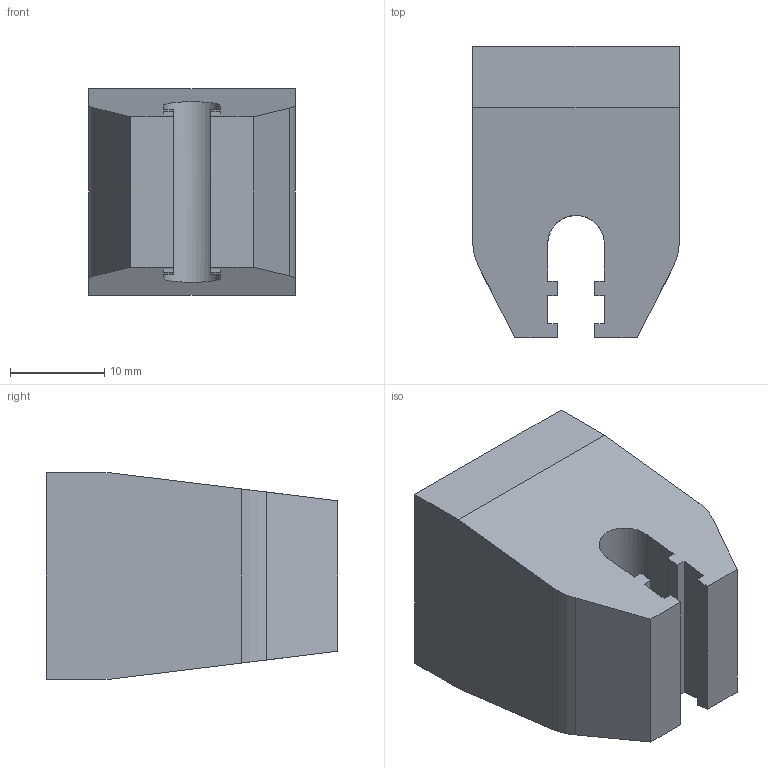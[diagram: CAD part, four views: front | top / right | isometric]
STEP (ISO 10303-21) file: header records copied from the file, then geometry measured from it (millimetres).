
FILE_DESCRIPTION (( 'STEP AP214' ), '1' );
FILE_NAME ('B-20006.STEP', '2019-12-04T08:19:47', ( '微软用户' ), ( '微软中国' ), 'SwSTEP 2.0', 'SolidWorks 2016', '' );
FILE_SCHEMA (( 'AUTOMOTIVE_DESIGN' ));
Length unit declared in the file: millimetre
Products named in the file (1): B-20006
Bounding box: 22 x 31 x 22 mm (x, y, z)
Volume: 10930.2 mm3; surface area: 4019 mm2
Topology: 1 solids, 1 shells, 34 faces, 90 edges, 60 vertices
Faces by surface type: plane 27, cylinder 7
Entity records: 1450 total; most frequent: CARTESIAN_POINT 203, ORIENTED_EDGE 180, DIRECTION 162, EDGE_CURVE 90, LINE 76, VECTOR 76, VERTEX_POINT 60, AXIS2_PLACEMENT_3D 43
